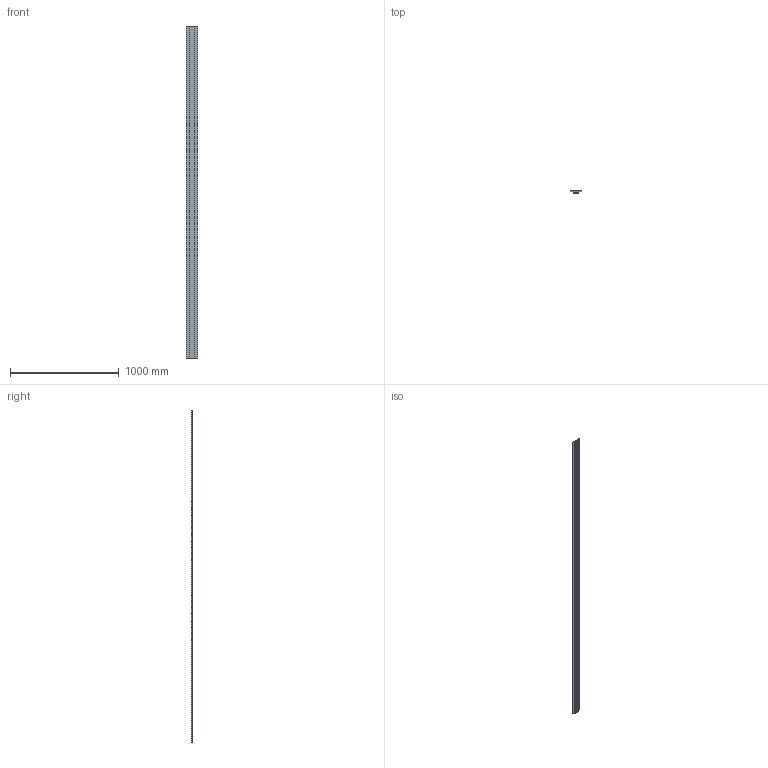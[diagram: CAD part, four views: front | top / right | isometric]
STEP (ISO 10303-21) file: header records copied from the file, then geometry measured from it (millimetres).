
FILE_DESCRIPTION(/* description */ (''),/* implementation_level */ '2;1');
FILE_NAME(/* name */ 'M11F.stp',/* time_stamp */ '2025-10-20T16:39:16-04:00',/* author */ ('samuel.gauthier'),/* organization */ (''),/* preprocessor_version */ 'ST-DEVELOPER v20',/* originating_system */ 'Autodesk Inventor 2025',/* authorisation */ '');
FILE_SCHEMA (('AUTOMOTIVE_DESIGN { 1 0 10303 214 3 1 1 }'));
Length unit declared in the file: inch
Products named in the file (1): M11F
Bounding box: 101.6 x 14.17 x 3048 mm (x, y, z)
Volume: 413148.3 mm3; surface area: 1636129.5 mm2
Topology: 3 solids, 3 shells, 38 faces, 96 edges, 64 vertices
Faces by surface type: plane 30, cylinder 8
Entity records: 1179 total; most frequent: CARTESIAN_POINT 199, ORIENTED_EDGE 192, DIRECTION 190, EDGE_CURVE 96, LINE 80, VECTOR 80, VERTEX_POINT 64, AXIS2_PLACEMENT_3D 55
